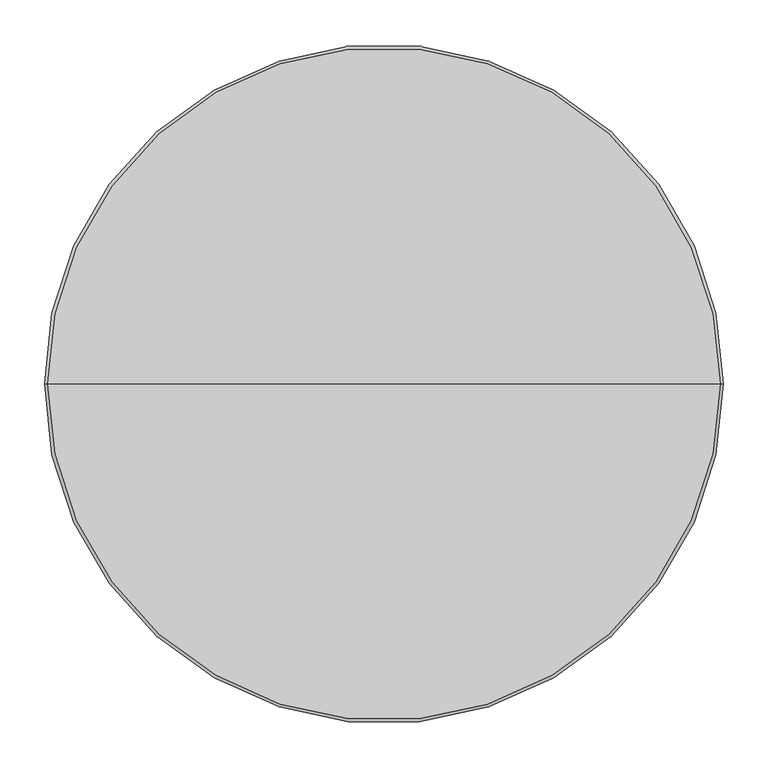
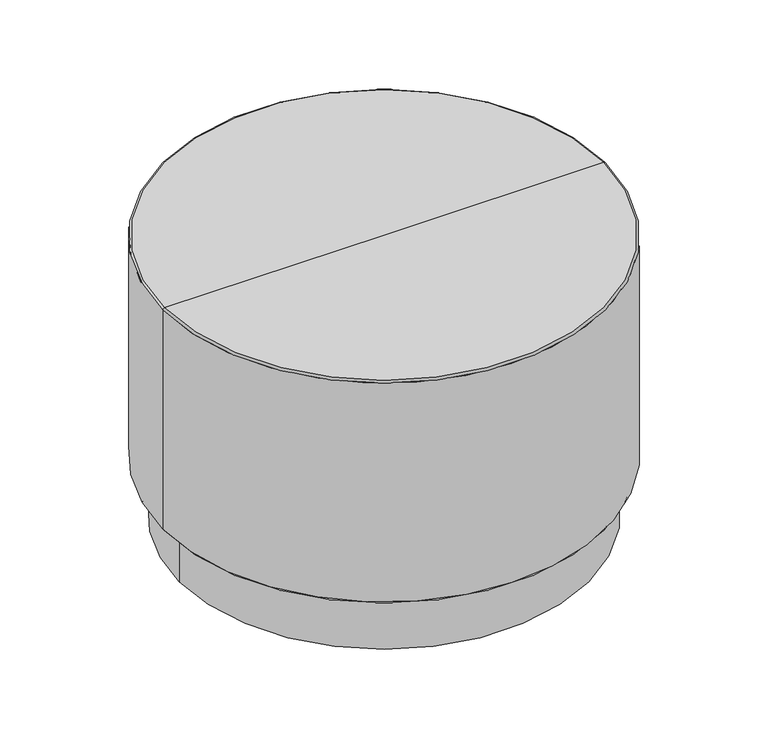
"""IFC4 building model written with IfcOpenShell, lengths in millimetres: furniture geometry, StanceHC-Drum_Table_Upholstered-Plinth_Base : DRT-30D-20-H."""

from ifc_helpers import new_model, si_unit, point, frame, frame_2d, origin, origin_with_axes, place, context, project, spatial, circle_curve, ellipse_curve, trimmed, segment, composite_curve, outline, extrude, source, transform, mapped, element, save
from ifc_brep_helpers import plane_surface, cylinder_surface, revolved_surface, advanced_brep


def furniture_b041ff5f(model_context):
    return source(origin(), model_context, "Body", "SolidModel", [
        extrude(outline(composite_curve([segment(trimmed(circle_curve(frame_2d((0.0, 319.9664845)), 12.7), [point((-12.7, 319.9664845))], [point((12.7, 319.9664845))], False, "CARTESIAN"), True, "CONTINUOUS"), segment(trimmed(circle_curve(frame_2d((0.0, 319.9664845)), 12.7), [point((12.7, 319.9664845))], [point((-12.7, 319.9664845))], False, "CARTESIAN"), True, "CONTINUOUS")], self_intersect=False)), origin_with_axes(), (0.0, 0.0, 1.0), 4.7625),
        extrude(outline(composite_curve([segment(trimmed(circle_curve(frame_2d((0.0, -319.9664845)), 12.7), [point((-12.7, -319.9664845))], [point((12.7, -319.9664845))], False, "CARTESIAN"), True, "CONTINUOUS"), segment(trimmed(circle_curve(frame_2d((0.0, -319.9664845)), 12.7), [point((12.7, -319.9664845))], [point((-12.7, -319.9664845))], False, "CARTESIAN"), True, "CONTINUOUS")], self_intersect=False)), origin_with_axes(), (0.0, 0.0, 1.0), 4.7625),
        extrude(outline(composite_curve([segment(trimmed(circle_curve(frame_2d((323.8496404, 0.0)), 12.7), [point((311.1496404, 0.0))], [point((336.5496404, 0.0))], False, "CARTESIAN"), True, "CONTINUOUS"), segment(trimmed(circle_curve(frame_2d((323.8496404, 0.0)), 12.7), [point((336.5496404, 0.0))], [point((311.1496404, 0.0))], False, "CARTESIAN"), True, "CONTINUOUS")], self_intersect=False)), origin_with_axes(), (0.0, 0.0, 1.0), 4.7625),
        extrude(outline(composite_curve([segment(trimmed(circle_curve(frame_2d((-323.8496404, 0.0)), 12.7), [point((-336.5496404, 0.0))], [point((-311.1496404, 0.0))], False, "CARTESIAN"), True, "CONTINUOUS"), segment(trimmed(circle_curve(frame_2d((-323.8496404, 0.0)), 12.7), [point((-311.1496404, 0.0))], [point((-336.5496404, 0.0))], False, "CARTESIAN"), True, "CONTINUOUS")], self_intersect=False)), origin_with_axes(), (0.0, 0.0, 1.0), 4.7625),
        advanced_brep(
        [(-376.2042756, 0.0, 106.3625), (376.2042756, 0.0, 106.3625), (352.4246404, 0.0, 106.3625), (-352.4246404, 0.0, 106.3625), (-376.2042756, 0.0, 111.125), (376.2042756, 0.0, 111.125), (0.0, 0.0, 111.125), (-352.4246404, 0.0, 4.7625), (352.4246404, 0.0, 4.7625), (0.0, 0.0, 4.7625)],
        [
            (0, 1, circle_curve(frame((0.0, 0.0, 106.3625), z_axis=(0.0, 0.0, -1.0), x_axis=(1.0, 0.0, 0.0)), 376.2042756)),
            (1, 2),
            (2, 3, circle_curve(frame((0.0, 0.0, 106.3625), z_axis=(0.0, 0.0, 1.0), x_axis=(1.0, 0.0, 0.0)), 352.4246404)),
            (3, 0),
            (1, 0, circle_curve(frame((0.0, 0.0, 106.3625), z_axis=(0.0, 0.0, -1.0), x_axis=(1.0, 0.0, 0.0)), 376.2042756)),
            (3, 2, circle_curve(frame((0.0, 0.0, 106.3625), z_axis=(0.0, 0.0, 1.0), x_axis=(1.0, 0.0, 0.0)), 352.4246404)),
            (4, 5, circle_curve(frame((0.0, 0.0, 111.125), z_axis=(0.0, 0.0, -1.0), x_axis=(1.0, 0.0, 0.0)), 376.2042756)),
            (5, 1, circle_curve(frame((376.2042756, 0.0, 108.74375), z_axis=(0.0, 1.0, 0.0), x_axis=(1.0, 0.0, 0.0)), 2.38125)),
            (0, 4, circle_curve(frame((-376.2042756, 0.0, 108.74375), z_axis=(0.0, 1.0, 0.0), x_axis=(-1.0, 0.0, 0.0)), 2.38125)),
            (5, 4, circle_curve(frame((0.0, 0.0, 111.125), z_axis=(0.0, 0.0, -1.0), x_axis=(1.0, 0.0, 0.0)), 376.2042756)),
            (6, 5),
            (4, 6),
            (7, 8, circle_curve(frame((0.0, 0.0, 4.7625), z_axis=(0.0, 0.0, -1.0), x_axis=(1.0, 0.0, 0.0)), 352.4246404)),
            (8, 9),
            (9, 7),
            (8, 7, circle_curve(frame((0.0, 0.0, 4.7625), z_axis=(0.0, 0.0, -1.0), x_axis=(1.0, 0.0, 0.0)), 352.4246404)),
            (2, 8),
            (7, 3),
        ],
        [
            plane_surface(frame((0.0, 0.0, 106.3625), z_axis=(0.0, 0.0, -1.0), x_axis=(1.0, 0.0, 0.0))),
            revolved_surface(trimmed(ellipse_curve(frame((376.2042756, 0.0, 108.74375), z_axis=(0.0, -1.0, 0.0), x_axis=(1.0, 0.0, 0.0)), 2.38125, 2.38125), [point((376.2042756, 0.0, 106.3625))], [point((376.2042756, 0.0, 111.125))], True, "CARTESIAN"), (0.0, 0.0, 165.1), (0.0, 0.0, 1.0)),
            plane_surface(frame((0.0, 0.0, 111.125), z_axis=(0.0, 0.0, 1.0), x_axis=(1.0, 0.0, 0.0))),
            plane_surface(frame((0.0, 0.0, 4.7625), z_axis=(0.0, 0.0, -1.0), x_axis=(1.0, 0.0, 0.0))),
            cylinder_surface(frame((0.0, 0.0, 165.1), z_axis=(0.0, 0.0, 1.0), x_axis=(1.0, 0.0, 0.0)), 352.4246404),
        ],
        [
            (0, [[1, 2, 3, 4]]),
            (0, [[5, -4, 6, -2]]),
            (1, [[7, 8, -1, 9]]),
            (1, [[10, -9, -5, -8]]),
            (2, [[11, -7, 12]]),
            (2, [[-12, -10, -11]]),
            (3, [[13, 14, 15]]),
            (3, [[16, -15, -14]]),
            (4, [[-3, 17, -13, 18]]),
            (4, [[-6, -18, -16, -17]]),
        ],
    ),
        advanced_brep(
        [(-381.0, 0.0, 111.125), (381.0, 0.0, 111.125), (0.0, 0.0, 111.125), (-381.0, 0.0, 509.6389933), (381.0, 0.0, 509.6389933), (-377.8764933, 0.0, 512.7625), (377.8764933, 0.0, 512.7625), (0.0, 0.0, 512.7625)],
        [
            (0, 1, circle_curve(frame((0.0, 0.0, 111.125), z_axis=(0.0, 0.0, -1.0), x_axis=(1.0, 0.0, 0.0)), 381.0)),
            (1, 2),
            (2, 0),
            (1, 0, circle_curve(frame((0.0, 0.0, 111.125), z_axis=(0.0, 0.0, -1.0), x_axis=(1.0, 0.0, 0.0)), 381.0)),
            (3, 4, circle_curve(frame((0.0, 0.0, 509.6389933), z_axis=(0.0, 0.0, -1.0), x_axis=(1.0, 0.0, 0.0)), 381.0)),
            (4, 1),
            (0, 3),
            (4, 3, circle_curve(frame((0.0, 0.0, 509.6389933), z_axis=(0.0, 0.0, -1.0), x_axis=(1.0, 0.0, 0.0)), 381.0)),
            (5, 6, circle_curve(frame((0.0, 0.0, 512.7625), z_axis=(0.0, 0.0, -1.0), x_axis=(1.0, 0.0, 0.0)), 377.8764933)),
            (6, 4, circle_curve(frame((377.8764933, 0.0, 509.6389933), z_axis=(0.0, 1.0, 0.0), x_axis=(1.0, 0.0, 0.0)), 3.1235067)),
            (3, 5, circle_curve(frame((-377.8764933, 0.0, 509.6389933), z_axis=(0.0, 1.0, 0.0), x_axis=(-1.0, 0.0, 0.0)), 3.1235067)),
            (6, 5, circle_curve(frame((0.0, 0.0, 512.7625), z_axis=(0.0, 0.0, -1.0), x_axis=(1.0, 0.0, 0.0)), 377.8764933)),
            (7, 6),
            (5, 7),
        ],
        [
            plane_surface(frame((0.0, 0.0, 111.125), z_axis=(0.0, 0.0, -1.0), x_axis=(1.0, 0.0, 0.0))),
            cylinder_surface(frame((0.0, 0.0, 608.0125), z_axis=(0.0, 0.0, 1.0), x_axis=(1.0, 0.0, 0.0)), 381.0),
            revolved_surface(trimmed(ellipse_curve(frame((377.8764933, 0.0, 509.6389933), z_axis=(0.0, -1.0, 0.0), x_axis=(1.0, 0.0, 0.0)), 3.1235067, 3.1235067), [point((381.0, 0.0, 509.6389933))], [point((377.8764933, 0.0, 512.7625))], True, "CARTESIAN"), (0.0, 0.0, 608.0125), (0.0, 0.0, 1.0)),
            plane_surface(frame((0.0, 0.0, 512.7625), z_axis=(0.0, 0.0, 1.0), x_axis=(1.0, 0.0, 0.0))),
        ],
        [
            (0, [[1, 2, 3]]),
            (0, [[4, -3, -2]]),
            (1, [[5, 6, -1, 7]]),
            (1, [[8, -7, -4, -6]]),
            (2, [[9, 10, -5, 11]]),
            (2, [[12, -11, -8, -10]]),
            (3, [[13, -9, 14]]),
            (3, [[-14, -12, -13]]),
        ],
    ),
    ])


if __name__ == "__main__":
    model = new_model("IFC4")
    model_context = context("Model", 3, world=origin())
    ifc_project = project(units=[si_unit("LENGTHUNIT", "METRE", prefix="MILLI")], contexts=[model_context])
    site = spatial("IfcSite", under=ifc_project)
    building = spatial("IfcBuilding", under=site)
    placement = place(None, origin())
    furniture_shape = furniture_b041ff5f(model_context)
    element("IfcFurniture", 1, ObjectType="StanceHC-Drum_Table_Upholstered-Plinth_Base : DRT-30D-20-H", at=placement, inside=building, context=model_context, shape_type="MappedRepresentation", body=[
        mapped(furniture_shape, transform((0.0, 0.0, 0.0), x_axis=(1.0, 0.0, 0.0), y_axis=(0.0, 1.0, 0.0), z_axis=(0.0, 0.0, 1.0))),
    ])
    save(model, "model.ifc")
